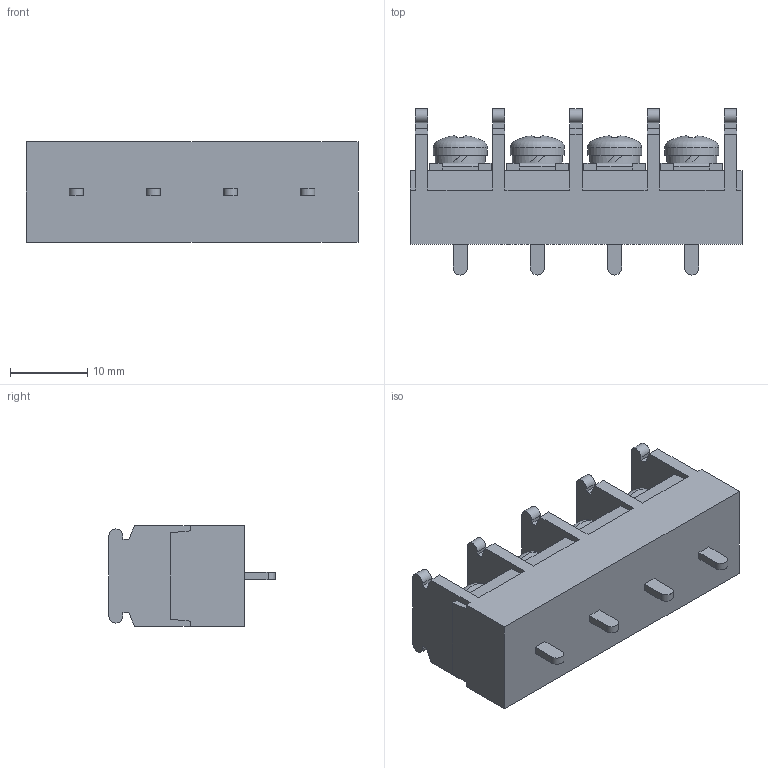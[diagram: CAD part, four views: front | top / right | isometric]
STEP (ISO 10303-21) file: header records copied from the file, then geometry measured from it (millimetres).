
FILE_DESCRIPTION(/* description */ ('Alibre Inc.'),/* implementation_level */ '2;1');
FILE_NAME(/* name */ 'export0',/* time_stamp */ '2015-10-17T18:05:08+09:00',/* author */ (''),/* organization */ (''),/* preprocessor_version */ 'ST-DEVELOPER v14',/* originating_system */ 'Alibre',/* authorisation */ '');
FILE_SCHEMA (('CONFIG_CONTROL_DESIGN'));
Length unit declared in the file: centimetre
Products named in the file (1): ID_1
Bounding box: 43 x 21.5 x 13 mm (x, y, z)
Volume: 6639.6 mm3; surface area: 4023.6 mm2
Topology: 1 solids, 17 shells, 656 faces, 1758 edges, 1168 vertices
Faces by surface type: plane 490, bspline 104, cylinder 34, cone 16, torus 8, sphere 4
Full cylindrical faces by diameter (mm): 4 x4, 6.5 x4, 7 x4
Entity records: 19845 total; most frequent: CARTESIAN_POINT 4599, ORIENTED_EDGE 3460, DIRECTION 2282, EDGE_CURVE 1730, VECTOR 1310, LINE 1310, VERTEX_POINT 1156, AXIS2_PLACEMENT_3D 725
